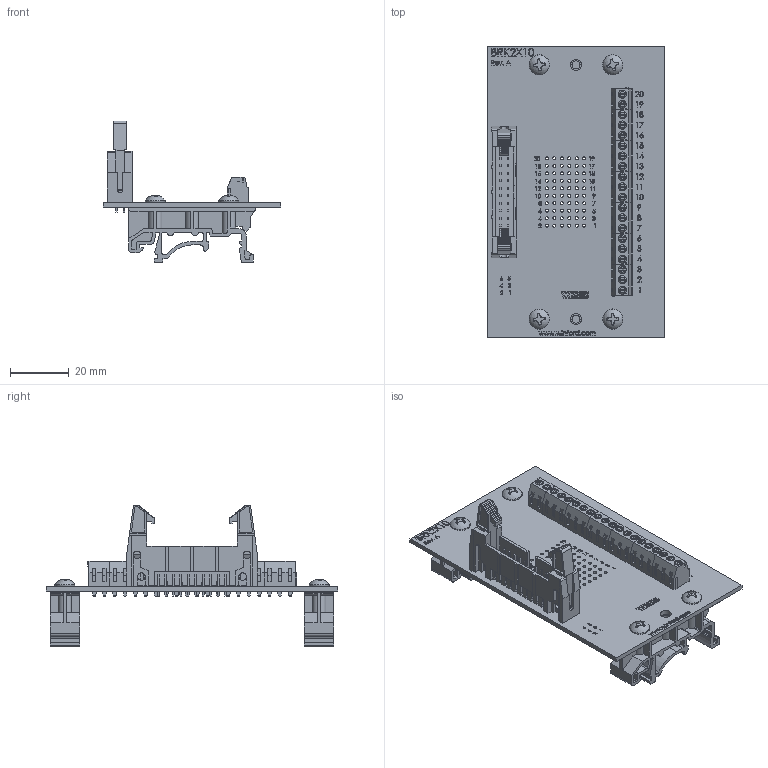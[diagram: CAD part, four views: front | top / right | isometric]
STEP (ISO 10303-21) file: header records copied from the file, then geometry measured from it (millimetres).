
FILE_DESCRIPTION (( 'STEP AP214' ), '1' );
FILE_NAME ('brk2x10-l-din_rev_a.step', '2018-01-08T03:48:27', ( '' ), ( '' ), 'SwSTEP 2.0', 'SolidWorks 2017', '' );
FILE_SCHEMA (( 'AUTOMOTIVE_DESIGN' ));
Length unit declared in the file: inch
Products named in the file (7): dinm01; Screw_SCSMPP-6-0.375_90184A127; Screw Terminal 3; Dual Row Header 2x10; Screw Terminal 2; BRK2X10; brk2x10-l-din_rev_a
Assembly tree (15 placements, depth 2):
  brk2x10-l-din_rev_a
    BRK2X10
    dinm01  x2
    Dual Row Header 2x10
    Screw Terminal 2
    Screw Terminal 3  x6
    Screw_SCSMPP-6-0.375_90184A127  x4
Bounding box: 60.45 x 99.06 x 48.17 mm (x, y, z)
Volume: 18208.1 mm3; surface area: 32342.9 mm2
Topology: 30 solids, 57 shells, 4382 faces, 11690 edges, 7647 vertices
Faces by surface type: plane 3077, cylinder 647, bspline 586, cone 44, torus 24, sphere 4
Full cylindrical faces by diameter (mm): 1.016 x79, 1.092 x20, 2 x40, 2.3 x4, 2.4 x2, 2.5 x4, 2.68 x20, 2.75 x26, 3.81 x6
Entity records: 134822 total; most frequent: CARTESIAN_POINT 48548, ORIENTED_EDGE 14853, DIRECTION 11806, EDGE_CURVE 7434, VECTOR 5510, LINE 5510, VERTEX_POINT 4932, EDGE_LOOP 3460
